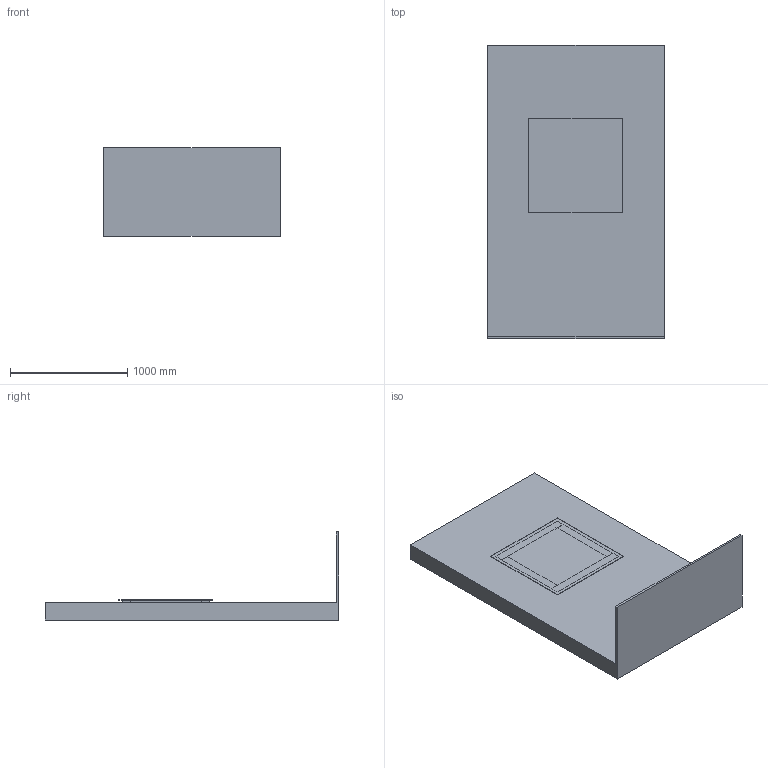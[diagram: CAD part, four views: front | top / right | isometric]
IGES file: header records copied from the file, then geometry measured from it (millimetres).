
Global section: file name: 3D Dosyası 80 cm,; native system: Autodesk Inventor 2024; preprocessor: unknown; author: pcs35; date: 20250627.131055; units: millimetre
Bounding box: 1500 x 2500 x 750 mm (x, y, z)
Volume: 586441960.6 mm3; surface area: 12312326.1 mm2
Topology: 18 solids, 18 shells, 444 faces, 1116 edges, 686 vertices
Faces by surface type: bspline 444
